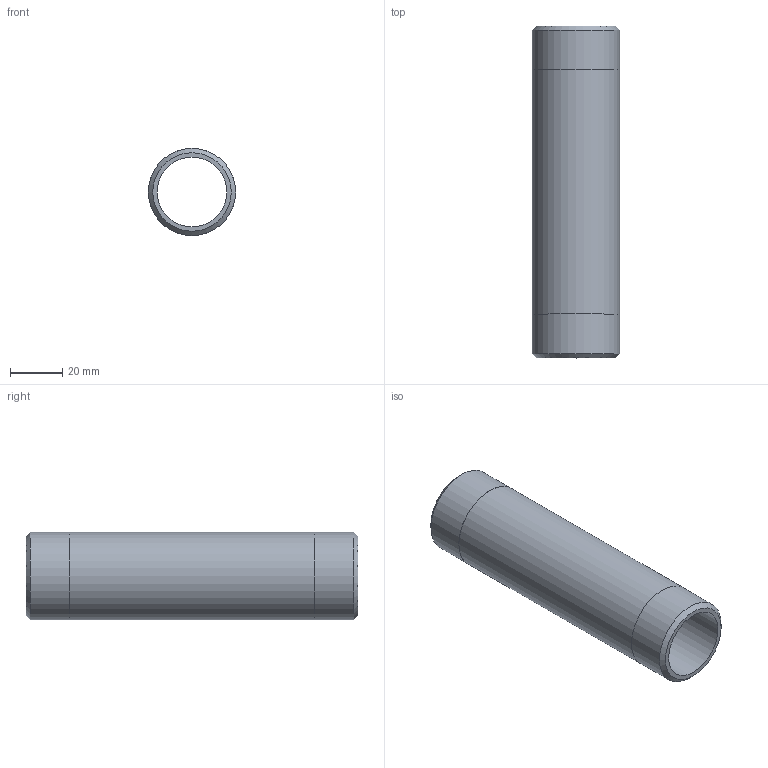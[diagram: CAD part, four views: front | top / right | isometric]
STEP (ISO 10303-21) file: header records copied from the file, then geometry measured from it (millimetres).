
FILE_DESCRIPTION(/* description */ (''),/* implementation_level */ '2;1');
FILE_NAME(/* name */ 'C:/Users/drich/Desktop/BPN1-5 v1.step',/* time_stamp */ '2020-01-03T14:16:04-06:00',/* author */ (''),/* organization */ (''),/* preprocessor_version */ 'ST-DEVELOPER v18',/* originating_system */ 'Autodesk Translation Framework v8.12.0.6',/* authorisation */ '');
FILE_SCHEMA (('AUTOMOTIVE_DESIGN { 1 0 10303 214 3 1 1 }'));
Length unit declared in the file: inch
Products named in the file (1): BPN1-5
Bounding box: 33.4 x 127 x 33.4 mm (x, y, z)
Volume: 40100.4 mm3; surface area: 24379.3 mm2
Topology: 1 solids, 1 shells, 10 faces, 24 edges, 18 vertices
Faces by surface type: cylinder 4, plane 4, cone 2
Full cylindrical faces by diameter (mm): 26.645 x1, 33.35 x2, 33.401 x1
Entity records: 360 total; most frequent: DIRECTION 64, CARTESIAN_POINT 53, ORIENTED_EDGE 48, AXIS2_PLACEMENT_3D 29, EDGE_CURVE 24, CIRCLE 18, VERTEX_POINT 18, EDGE_LOOP 14
